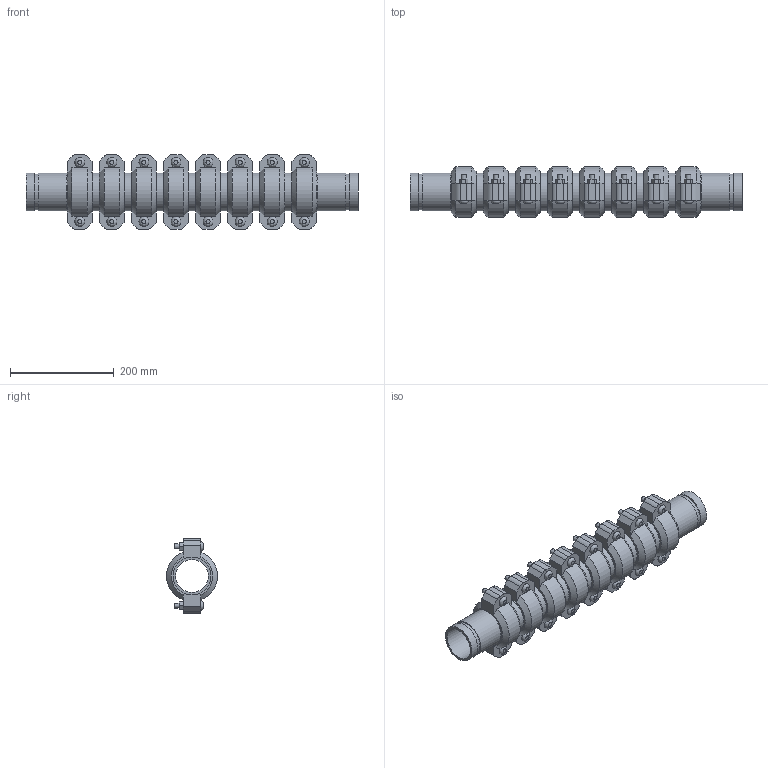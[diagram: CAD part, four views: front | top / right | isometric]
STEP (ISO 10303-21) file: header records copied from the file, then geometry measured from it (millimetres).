
FILE_DESCRIPTION(/* description */ ('VIC SS EXPANSION JOINT 8 COUPLINGS EXPANDED STYLE 155P (OGS) (POTABLE WATER) ','CAx-IF Rec.Pracs.---Representation and Presentation of Product Manufacturing Information (PMI)---4.0---2014-10-13'),/* implementation_level */ '2;1');
FILE_NAME(/* name */ 'C:\Users\kkamble\AppData\Roaming\Autodesk\ApplicationPlugins\Victaulic.Temp\A286\Victaulic_SS_Expansion Joint_Expanded_8 Couplings_Style 155P (OGS)-Potable Water_8 Coup_Expd_2.5 (65).stp',/* time_stamp */ '2021-07-16T16:56:27+05:00',/* author */ ('kkamble'),/* organization */ ('Victaulic'),/* preprocessor_version */ 'ST-DEVELOPER v17.2',/* originating_system */ 'Autodesk Inventor 2019',/* authorisation */ '');
FILE_SCHEMA (('AP242_MANAGED_MODEL_BASED_3D_ENGINEERING_MIM_LF { 1 0 10303 442 1 1 4 }'));
Length unit declared in the file: inch
Products named in the file (4): 155P-02.5; Nipple-02.5; Nipple-02.5_1; 075-02.5
Assembly tree (17 placements, depth 2):
  155P-02.5
    Nipple-02.5  x2
    Nipple-02.5_1  x7
    075-02.5  x8
Bounding box: 641.35 x 98.22 x 144.27 mm (x, y, z)
Volume: 2306142.1 mm3; surface area: 654496.1 mm2
Topology: 17 solids, 33 shells, 564 faces, 1335 edges, 938 vertices
Faces by surface type: plane 342, cylinder 174, cone 32, bspline 16
Full cylindrical faces by diameter (mm): 9.525 x32, 11.43 x16, 63.475 x9, 66.675 x8, 69.088 x18, 73.025 x43
Entity records: 2854 total; most frequent: CARTESIAN_POINT 503, DIRECTION 477, ORIENTED_EDGE 386, EDGE_CURVE 193, AXIS2_PLACEMENT_3D 192, VERTEX_POINT 138, EDGE_LOOP 107, LINE 93
